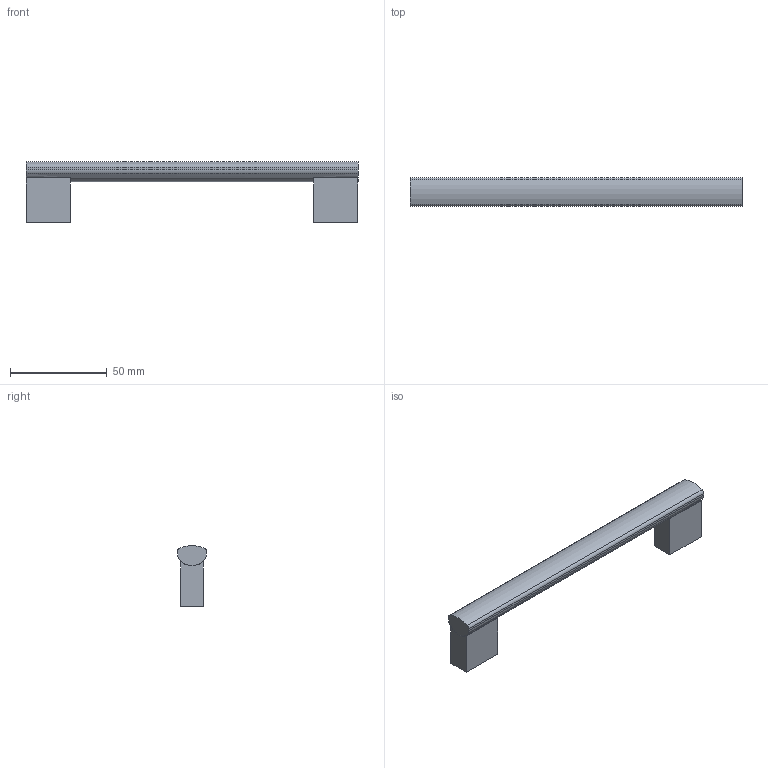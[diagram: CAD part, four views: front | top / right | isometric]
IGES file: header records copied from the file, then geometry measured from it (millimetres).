
Start section: Data from XPlus IGES,  Spatial Corp. Copyright (c) 1999-2004
Global section: file name: 115353.igs; native system:  By Spatial Corp.; preprocessor: XPlus ACIS/IGES 3.0; author: Noname; organization: Noname; date: 20130226.190324; units: millimetre
Bounding box: 172 x 15 x 31.44 mm (x, y, z)
Surface area: 10692.9 mm2 (no closed solid volume)
Topology: 0 solids, 0 shells, 30 faces, 144 edges, 144 vertices
Faces by surface type: extrusion 20, revolution 10
